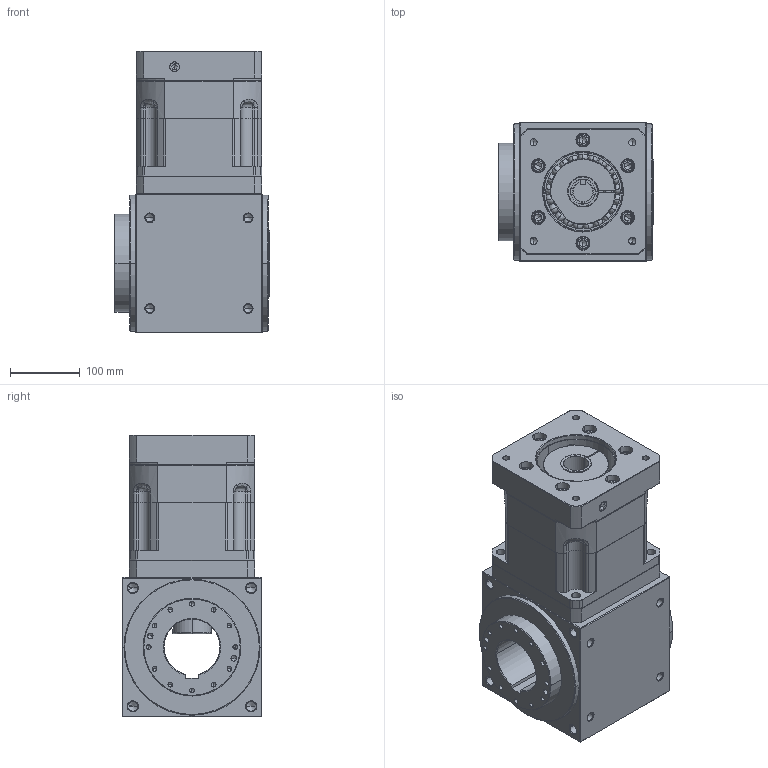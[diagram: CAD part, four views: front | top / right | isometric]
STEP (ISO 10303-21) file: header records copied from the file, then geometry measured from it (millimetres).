
FILE_DESCRIPTION (( 'STEP AP214' ), '1' );
FILE_NAME ('PAB-180-L1-S2-P2 35-114.STEP', '2020-12-01T01:34:35', ( '微软用户' ), ( '微软中国' ), 'SwSTEP 2.0', 'SolidWorks 2014', '' );
FILE_SCHEMA (( 'AUTOMOTIVE_DESIGN' ));
Length unit declared in the file: millimetre
Products named in the file (89): Circlips for hole--Type B GB_GB_CONNECTING_PIECE_RINGS_CHB 110; 薊粣んD42K30; Spring lock washers--Normal type GB_GB_FASTENER_WASHER_SW 12; 俴陎粣15.259; Circlips for holes--Type A GB_GB_CONNECTING_PIECE_RING_RRH 130; 蚐猾75X130X12; 怮栠謫5B; Deep groove ball bearings GB_Rolling bearings 61826 GB 276-94; Deep groove ball bearings GB_Rolling bearings 6214 GB 276-94; 怀堤粣5B; 笢潔楊擘; Hexagon socket head cap screws GB_GB_FASTENER_SCREWS_HSHCS M10X55-N; Deep groove ball bearings GB_Rolling bearings 6215 GB 276-94; Hexagon socket head cap screws GB_GB_FASTENER_SCREWS_HSHCS M12X45-N; 俴陎謫5B; 齿圈Z108; PAB-180-L1-S2-P2  35-114; 俴陎謫菜え15.4X28; Spring lock washers--Normal type GB_GB_FASTENER_WASHER_SW 10; 7777; 幗渀粣創15.259X21.259; 曹噤杶42-35; 薊粣ん囀傍え42; Hex socket set screws with flat point GB_GB_FASTENER_SCREWS_HSFP M16X20-N; Circlips for shaft--Type B GB_GB_CONNECTING_PIECE_RINGS_CSB 70; Plain parallel keys_GB_CONNECTING_PIECE_KEYS_CSK C8X22; Hexagon socket head cap screws GB_GB_FASTENER_SCREWS_HSHCS M12X35-N; 萇儂楊擘D114.3M12
Assembly tree (61 placements, depth 2):
  Circlips for hole--Type B GB_GB_CONNECTING_PIECE_RINGS_CHB 110
  Spring lock washers--Normal type GB_GB_FASTENER_WASHER_SW 12
  俴陎粣15.259
  Circlips for holes--Type A GB_GB_CONNECTING_PIECE_RING_RRH 130
  Spring lock washers--Normal type GB_GB_FASTENER_WASHER_SW 12
Bounding box: 223 x 200 x 404 mm (x, y, z)
Volume: 12509489.9 mm3; surface area: 1230574.3 mm2
Topology: 61 solids, 61 shells, 2202 faces, 6744 edges, 4202 vertices
Faces by surface type: cylinder 718, plane 542, bspline 506, cone 340, sphere 96
Entity records: 99504 total; most frequent: CARTESIAN_POINT 35274, ORIENTED_EDGE 10244, DIRECTION 8058, EDGE_CURVE 5122, AXIS2_PLACEMENT_3D 3387, VERTEX_POINT 3371, CIRCLE 2046, EDGE_LOOP 1941
